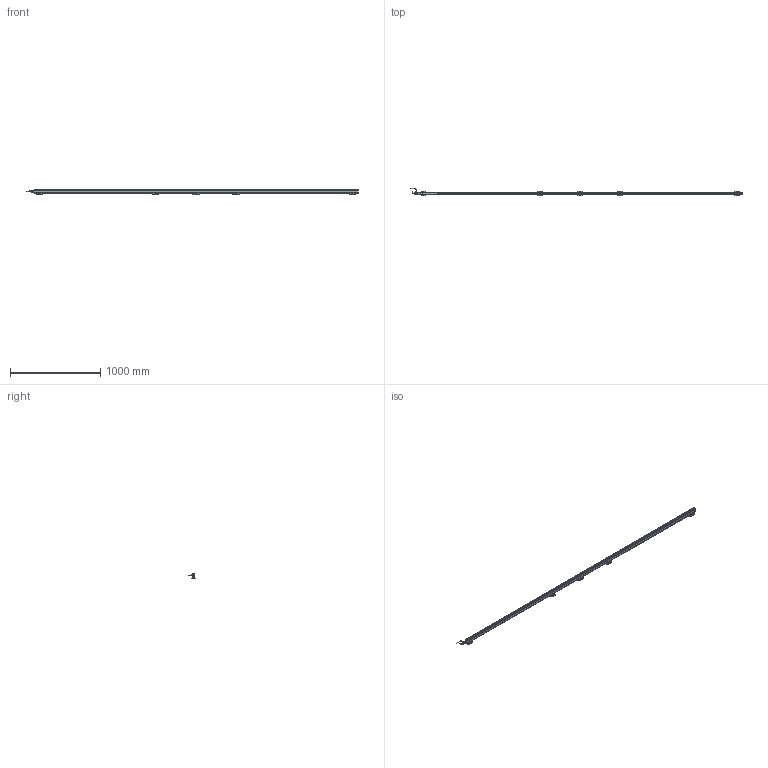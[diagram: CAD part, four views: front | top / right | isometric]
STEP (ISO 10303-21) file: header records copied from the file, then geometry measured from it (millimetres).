
FILE_DESCRIPTION(('Bauteilbeschreibung','HiCAD-Model','HiCAD-STEP-TRANSLATION','Bauteilbeschreibung'),'2;1');
FILE_NAME('PERFORMAXIQEASY_3510-3600_3D.STP','2014-03-05T13:22:38+00:00',('Konstrukteur'),('Konstrukteur Firma GmbH'),' HiCAD 2011, Step 1600.0 ','HiCAD 2011','confidential');
FILE_SCHEMA(('AUTOMOTIVE_DESIGN { 1 2 10303 214 0 1 1 1 }'));
Products named in the file (51): PERFORMAXIQEASY_3510_3600_3D; A_PERFORMAX IQ EASY 3510_3600; A_PERFORMAX IQ EASY SPEED; A_CAP DE; A_CAP CE_5; LED_2C_3MM; LED02C03MM; A519020315_CONNECTOR APPLIANCE; A_INSERT; A_CONTACTS; A_HOUSING; A_PROFILE; A_POTTING; PIN; PIN0; A532000100_BRACKET BARS_ MOUNT; A_SIDE PIECE; A0SIDE0PIECE; A_BRACKET SMALL; A_SLIDE PIECE; A5320001000BRACKET0BARS00MOUNT; A0SIDE0PIECE0; A0SIDE0PIECE1; A0BRACKET0SMALL; A0SLIDE0PIECE; A5320001000BRACKET0BARS00MOUNT0; A0SIDE0PIECE2; A0SIDE0PIECE3; A0BRACKET0SMALL0; A0SLIDE0PIECE0; A0SIDE0PIECE4; A0SIDE0PIECE5; A0BRACKET0SMALL1; A0SLIDE0PIECE1; A0SIDE0PIECE6; A0SIDE0PIECE7; A0BRACKET0SMALL2; A0SLIDE0PIECE2; A_CONNECTOR STRAIGHT; EXTRUDED SOLID_0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
Assembly tree (50 placements, depth 5):
  PERFORMAXIQEASY_3510_3600_3D
    A_PERFORMAX IQ EASY 3510_3600
      A_PERFORMAX IQ EASY SPEED
        A_CAP DE
        A_CAP CE_5
        LED_2C_3MM
        LED02C03MM
        A519020315_CONNECTOR APPLIANCE
          A_INSERT
          A_CONTACTS
          A_HOUSING
        A_PROFILE
        A_POTTING
        PIN
        PIN0
      A532000100_BRACKET BARS_ MOUNT
        A_SIDE PIECE
        A0SIDE0PIECE
        A_BRACKET SMALL
        A_SLIDE PIECE
      A5320001000BRACKET0BARS00MOUNT
        A0SIDE0PIECE0
        A0SIDE0PIECE1
        A0BRACKET0SMALL
        A0SLIDE0PIECE
      A5320001000BRACKET0BARS00MOUNT0
        A0SIDE0PIECE2
        A0SIDE0PIECE3
        A0BRACKET0SMALL0
        A0SLIDE0PIECE0
      A5320001000BRACKET0BARS00MOUNT0
        A0SIDE0PIECE4
        A0SIDE0PIECE5
        A0BRACKET0SMALL1
        A0SLIDE0PIECE1
      A5320001000BRACKET0BARS00MOUNT0
        A0SIDE0PIECE6
        A0SIDE0PIECE7
        A0BRACKET0SMALL2
        A0SLIDE0PIECE2
      A_CONNECTOR STRAIGHT
        EXTRUDED SOLID_0
        DRAAD GEBOGEN
        REVOLVED SOLID_1
        REVOLVED SOLID_3
      A_CONNECTOR ANGLED
        REVOLVED0SOLID01
        EXTRUDED0SOLID00
        C_EDGE SWEEP_0
        REVOLVED SOLID_2
        REVOLVED0SOLID03
Bounding box: 3677.89 x 84.26 x 63.13 mm (x, y, z)
Volume: 3697585.2 mm3; surface area: 890678.3 mm2
Topology: 45 solids, 45 shells, 4215 faces, 10820 edges, 6422 vertices
Faces by surface type: cylinder 1797, plane 1597, sphere 277, torus 252, bspline 208, cone 84
Full cylindrical faces by diameter (mm): 0.8 x10, 1 x5, 2.387 x10, 3 x23, 3.1 x1, 4.2 x2, 5 x4, 5.5 x25, 8 x2, 8.2 x1, 8.4 x2, 8.945 x1, 9 x2, 10.2 x1, 10.5 x3, 11 x1, 12 x3, 12.8 x1, 13.8 x4, 14.5 x3
Entity records: 195163 total; most frequent: CARTESIAN_POINT 45850, DIRECTION 20961, ORIENTED_EDGE 20534, EDGE_CURVE 10267, COLOUR_RGB 9750, PRESENTATION_STYLE_ASSIGNMENT 9750, OVER_RIDING_STYLED_ITEM 9710, CURVE_STYLE 9705
